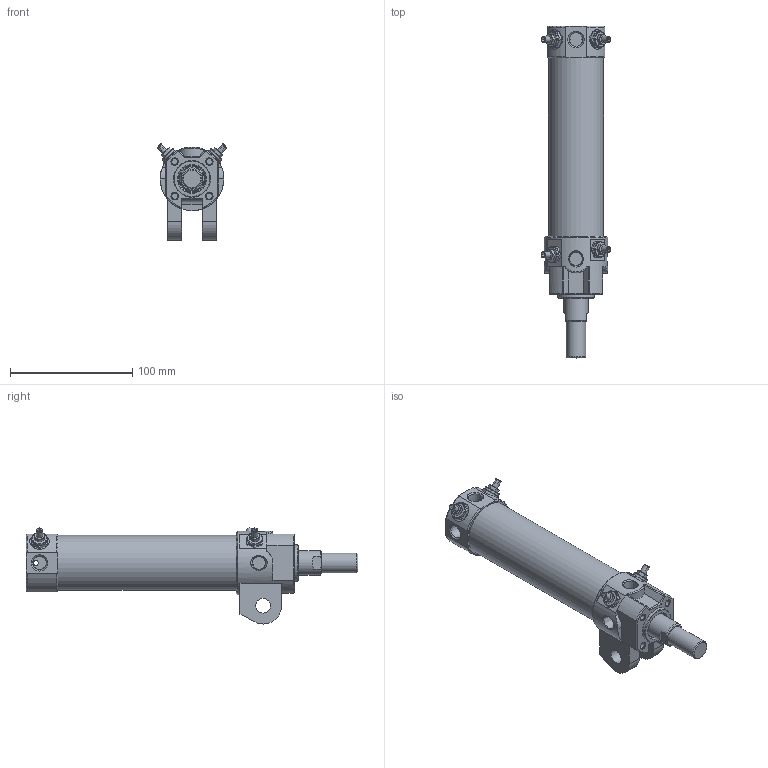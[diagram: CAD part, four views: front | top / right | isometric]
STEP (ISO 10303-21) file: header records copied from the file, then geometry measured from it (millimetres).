
FILE_DESCRIPTION((''),'2;1');
FILE_NAME('I:\3D電子目錄\氣缸\DCK\DCK\DCK-1A-40x100.stp','2008-02-25T15:50:14',('Administrator'),(''),'Autodesk Inventor 11','Autodesk Inventor 11','');
FILE_SCHEMA(('AUTOMOTIVE_DESIGN { 1 0 10303 214 1 1 1 1 }'));
Length unit declared in the file: millimetre
Products named in the file (1): DCK-1A-40x100
Bounding box: 57.13 x 271.5 x 78.56 mm (x, y, z)
Volume: 202239.4 mm3; surface area: 92637.4 mm2
Topology: 11 solids, 11 shells, 524 faces, 1220 edges, 764 vertices
Faces by surface type: bspline 161, plane 148, cylinder 127, cone 59, torus 27, sphere 2
Full cylindrical faces by diameter (mm): 2 x1, 3 x3, 3.8 x2, 4 x4, 4.6 x2, 5 x6, 5.1 x4, 5.2 x2, 7 x1, 7.25 x1, 8 x2, 8.3 x1, 10 x2, 12 x2, 12.8 x2, 16 x2, 20 x1, 21 x1, 22 x3, 23 x1, 24.7 x1, 26 x1, 28 x1, 29 x1, 30 x1, 33 x1, 40 x1, 42 x2, 45 x1, 52 x1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
Entity records: 25488 total; most frequent: CARTESIAN_POINT 15240, ORIENTED_EDGE 2104, DIRECTION 1851, EDGE_CURVE 1052, AXIS2_PLACEMENT_3D 764, EDGE_LOOP 730, VERTEX_POINT 724, FACE_OUTER_BOUND 522
